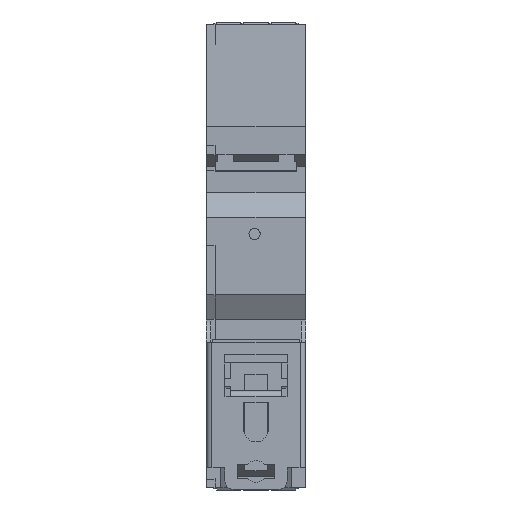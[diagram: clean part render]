
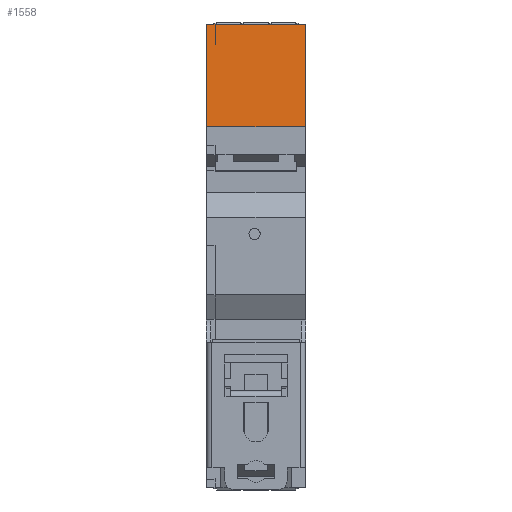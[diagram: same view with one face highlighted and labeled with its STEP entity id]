
A CAD part, front view. The second image highlights one B-rep face of the part: STEP entity #1558.
In plain terms, the highlighted planar face has unit normal (0, -0.997, 0.077).
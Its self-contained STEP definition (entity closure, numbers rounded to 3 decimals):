
#1460 = CARTESIAN_POINT ( 'NONE',  ( -17.5, -15.5, 41. ) ) ;
#1558 = ADVANCED_FACE ( 'NONE', ( #2302 ), #15050, .T. ) ;
#1748 = VERTEX_POINT ( 'NONE', #15250 ) ;
#2302 = FACE_OUTER_BOUND ( 'NONE', #22750, .T. ) ;
#2754 = LINE ( 'NONE', #23643, #3459 ) ;
#2819 = VERTEX_POINT ( 'NONE', #11165 ) ;
#3459 = VECTOR ( 'NONE', #28403, 1000. ) ;
#4560 = VERTEX_POINT ( 'NONE', #12975 ) ;
#4611 = ORIENTED_EDGE ( 'NONE', *, *, #6679, .F. ) ;
#4647 = LINE ( 'NONE', #27421, #11467 ) ;
#5090 = ORIENTED_EDGE ( 'NONE', *, *, #27446, .F. ) ;
#6273 = CARTESIAN_POINT ( 'NONE',  ( -16., -15.5, 41. ) ) ;
#6679 = EDGE_CURVE ( 'NONE', #16868, #2819, #29454, .T. ) ;
#7577 = EDGE_CURVE ( 'NONE', #23679, #1748, #4647, .T. ) ;
#7682 = EDGE_CURVE ( 'NONE', #1748, #4560, #9666, .T. ) ;
#7731 = CARTESIAN_POINT ( 'NONE',  ( -17.5, -16.9, 22.9 ) ) ;
#7864 = ORIENTED_EDGE ( 'NONE', *, *, #7577, .T. ) ;
#8017 = EDGE_CURVE ( 'NONE', #23679, #16868, #15076, .T. ) ;
#8422 = ORIENTED_EDGE ( 'NONE', *, *, #7682, .T. ) ;
#9666 = LINE ( 'NONE', #7731, #24746 ) ;
#11165 = CARTESIAN_POINT ( 'NONE',  ( 0., -15.5, 41. ) ) ;
#11467 = VECTOR ( 'NONE', #25404, 1000. ) ;
#12447 = DIRECTION ( 'NONE',  ( 1., 0., 0. ) ) ;
#12791 = CARTESIAN_POINT ( 'NONE',  ( -17.5, -15.5, 41. ) ) ;
#12975 = CARTESIAN_POINT ( 'NONE',  ( 0., -16.9, 22.9 ) ) ;
#14124 = CARTESIAN_POINT ( 'NONE',  ( -17.5, -15.5, 41. ) ) ;
#14738 = AXIS2_PLACEMENT_3D ( 'NONE', #12791, #15919, #29731 ) ;
#15050 = PLANE ( 'NONE',  #14738 ) ;
#15076 = LINE ( 'NONE', #23520, #29401 ) ;
#15250 = CARTESIAN_POINT ( 'NONE',  ( -17.5, -16.9, 22.9 ) ) ;
#15919 = DIRECTION ( 'NONE',  ( 0., -0.997, 0.077 ) ) ;
#16868 = VERTEX_POINT ( 'NONE', #6273 ) ;
#17483 = ORIENTED_EDGE ( 'NONE', *, *, #8017, .F. ) ;
#21029 = DIRECTION ( 'NONE',  ( 1., 0., 0. ) ) ;
#22750 = EDGE_LOOP ( 'NONE', ( #5090, #4611, #17483, #7864, #8422 ) ) ;
#23520 = CARTESIAN_POINT ( 'NONE',  ( -17.5, -15.5, 41. ) ) ;
#23643 = CARTESIAN_POINT ( 'NONE',  ( 0., -15.5, 41. ) ) ;
#23679 = VERTEX_POINT ( 'NONE', #14124 ) ;
#24746 = VECTOR ( 'NONE', #12447, 1000. ) ;
#25404 = DIRECTION ( 'NONE',  ( 0., -0.077, -0.997 ) ) ;
#26662 = DIRECTION ( 'NONE',  ( 1., 0., 0. ) ) ;
#27421 = CARTESIAN_POINT ( 'NONE',  ( -17.5, -15.5, 41. ) ) ;
#27446 = EDGE_CURVE ( 'NONE', #2819, #4560, #2754, .T. ) ;
#28010 = VECTOR ( 'NONE', #26662, 1000. ) ;
#28403 = DIRECTION ( 'NONE',  ( 0., -0.077, -0.997 ) ) ;
#29401 = VECTOR ( 'NONE', #21029, 1000. ) ;
#29454 = LINE ( 'NONE', #1460, #28010 ) ;
#29731 = DIRECTION ( 'NONE',  ( 0., -0.077, -0.997 ) ) ;
